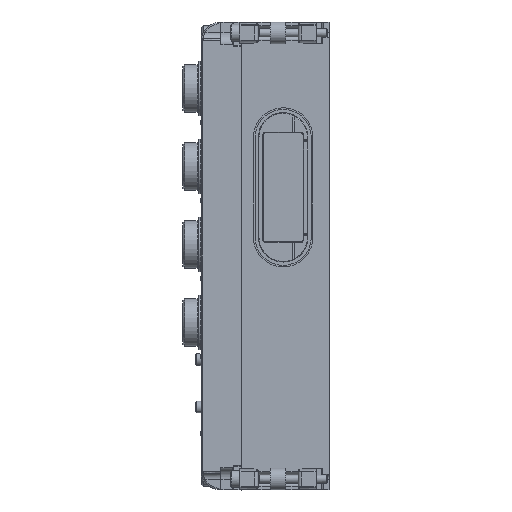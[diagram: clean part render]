
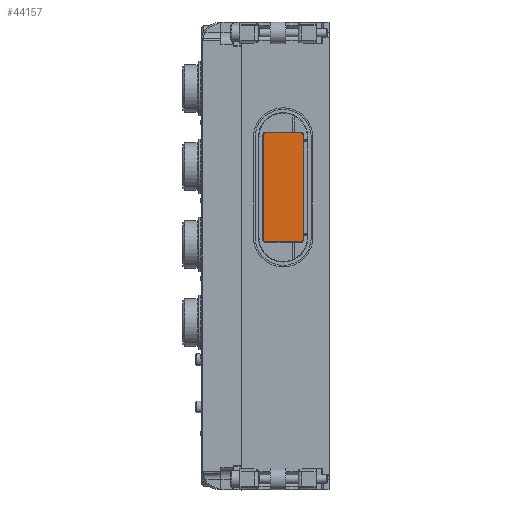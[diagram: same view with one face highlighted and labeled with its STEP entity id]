
A CAD part, left-side view. The second image highlights one B-rep face of the part: STEP entity #44157.
In plain terms, the highlighted planar face has unit normal (-1, 0, 0).
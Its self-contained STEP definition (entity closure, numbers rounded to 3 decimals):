
#125 = CARTESIAN_POINT ( 'NONE',  ( -32.3, -5., 39.5 ) ) ;
#1395 = EDGE_LOOP ( 'NONE', ( #45485, #97979, #51661, #4382, #16005, #28011, #72452, #62912 ) ) ;
#1918 = CARTESIAN_POINT ( 'NONE',  ( -32.3, 0.6, 38. ) ) ;
#4382 = ORIENTED_EDGE ( 'NONE', *, *, #8502, .T. ) ;
#8502 = EDGE_CURVE ( 'NONE', #49081, #49519, #45138, .T. ) ;
#9116 = LINE ( 'NONE', #21777, #92761 ) ;
#9375 = CARTESIAN_POINT ( 'NONE',  ( -32.3, 6.2, 38.7 ) ) ;
#10113 = DIRECTION ( 'NONE',  ( 0., 0., -1. ) ) ;
#13584 = EDGE_CURVE ( 'NONE', #56264, #72241, #75117, .T. ) ;
#14859 = CARTESIAN_POINT ( 'NONE',  ( -32.3, -5., 5.3 ) ) ;
#15142 = EDGE_CURVE ( 'NONE', #56264, #72830, #26420, .T. ) ;
#16005 = ORIENTED_EDGE ( 'NONE', *, *, #89438, .F. ) ;
#17506 = DIRECTION ( 'NONE',  ( 0., 0., -1. ) ) ;
#17836 = AXIS2_PLACEMENT_3D ( 'NONE', #14859, #71525, #22977 ) ;
#17898 = PLANE ( 'NONE',  #19612 ) ;
#19612 = AXIS2_PLACEMENT_3D ( 'NONE', #1918, #58561, #10113 ) ;
#21777 = CARTESIAN_POINT ( 'NONE',  ( -32.3, 7., 4.5 ) ) ;
#22977 = DIRECTION ( 'NONE',  ( 0., 0., -1. ) ) ;
#25859 = EDGE_CURVE ( 'NONE', #29797, #92174, #78473, .T. ) ;
#26420 = LINE ( 'NONE', #72669, #69505 ) ;
#28011 = ORIENTED_EDGE ( 'NONE', *, *, #59665, .T. ) ;
#28756 = VECTOR ( 'NONE', #85188, 1000. ) ;
#29797 = VERTEX_POINT ( 'NONE', #64042 ) ;
#34063 = CARTESIAN_POINT ( 'NONE',  ( -32.3, 6.2, 39.5 ) ) ;
#34395 = CARTESIAN_POINT ( 'NONE',  ( -32.3, 6.2, 4.5 ) ) ;
#34624 = CIRCLE ( 'NONE', #81601, 0.8 ) ;
#39536 = AXIS2_PLACEMENT_3D ( 'NONE', #95739, #47210, #103844 ) ;
#41263 = DIRECTION ( 'NONE',  ( -1., 0., 0. ) ) ;
#42362 = LINE ( 'NONE', #94876, #61368 ) ;
#44157 = ADVANCED_FACE ( 'NONE', ( #73039 ), #17898, .F. ) ;
#45138 = CIRCLE ( 'NONE', #17836, 0.8 ) ;
#45485 = ORIENTED_EDGE ( 'NONE', *, *, #45730, .F. ) ;
#45730 = EDGE_CURVE ( 'NONE', #29797, #72241, #9116, .T. ) ;
#47210 = DIRECTION ( 'NONE',  ( -1., 0., 0. ) ) ;
#49081 = VERTEX_POINT ( 'NONE', #60225 ) ;
#49519 = VERTEX_POINT ( 'NONE', #84223 ) ;
#50304 = LINE ( 'NONE', #77048, #28756 ) ;
#51661 = ORIENTED_EDGE ( 'NONE', *, *, #77791, .F. ) ;
#54811 = DIRECTION ( 'NONE',  ( 0., 1., 0. ) ) ;
#55293 = VERTEX_POINT ( 'NONE', #93148 ) ;
#56264 = VERTEX_POINT ( 'NONE', #34063 ) ;
#58561 = DIRECTION ( 'NONE',  ( 1., 0., 0. ) ) ;
#59665 = EDGE_CURVE ( 'NONE', #55293, #72830, #34624, .T. ) ;
#60225 = CARTESIAN_POINT ( 'NONE',  ( -32.3, -5., 4.5 ) ) ;
#61368 = VECTOR ( 'NONE', #54811, 1000. ) ;
#62906 = CARTESIAN_POINT ( 'NONE',  ( -32.3, 7., 38.7 ) ) ;
#62912 = ORIENTED_EDGE ( 'NONE', *, *, #13584, .T. ) ;
#64042 = CARTESIAN_POINT ( 'NONE',  ( -32.3, 7., 5.3 ) ) ;
#65942 = DIRECTION ( 'NONE',  ( -1., 0., 0. ) ) ;
#69505 = VECTOR ( 'NONE', #80453, 1000. ) ;
#71525 = DIRECTION ( 'NONE',  ( -1., 0., 0. ) ) ;
#72241 = VERTEX_POINT ( 'NONE', #62906 ) ;
#72452 = ORIENTED_EDGE ( 'NONE', *, *, #15142, .F. ) ;
#72669 = CARTESIAN_POINT ( 'NONE',  ( -32.3, 7., 39.5 ) ) ;
#72830 = VERTEX_POINT ( 'NONE', #125 ) ;
#73039 = FACE_OUTER_BOUND ( 'NONE', #1395, .T. ) ;
#75117 = CIRCLE ( 'NONE', #92484, 0.8 ) ;
#77048 = CARTESIAN_POINT ( 'NONE',  ( -32.3, -5.8, 4.5 ) ) ;
#77791 = EDGE_CURVE ( 'NONE', #49081, #92174, #42362, .T. ) ;
#78461 = DIRECTION ( 'NONE',  ( 0., 0., 1. ) ) ;
#78473 = CIRCLE ( 'NONE', #39536, 0.8 ) ;
#80453 = DIRECTION ( 'NONE',  ( 0., -1., 0. ) ) ;
#81601 = AXIS2_PLACEMENT_3D ( 'NONE', #89802, #41263, #97969 ) ;
#84223 = CARTESIAN_POINT ( 'NONE',  ( -32.3, -5.8, 5.3 ) ) ;
#85188 = DIRECTION ( 'NONE',  ( 0., 0., -1. ) ) ;
#89438 = EDGE_CURVE ( 'NONE', #55293, #49519, #50304, .T. ) ;
#89802 = CARTESIAN_POINT ( 'NONE',  ( -32.3, -5., 38.7 ) ) ;
#92174 = VERTEX_POINT ( 'NONE', #34395 ) ;
#92484 = AXIS2_PLACEMENT_3D ( 'NONE', #9375, #65942, #17506 ) ;
#92761 = VECTOR ( 'NONE', #78461, 1000. ) ;
#93148 = CARTESIAN_POINT ( 'NONE',  ( -32.3, -5.8, 38.7 ) ) ;
#94876 = CARTESIAN_POINT ( 'NONE',  ( -32.3, 7., 4.5 ) ) ;
#95739 = CARTESIAN_POINT ( 'NONE',  ( -32.3, 6.2, 5.3 ) ) ;
#97969 = DIRECTION ( 'NONE',  ( 0., 0., -1. ) ) ;
#97979 = ORIENTED_EDGE ( 'NONE', *, *, #25859, .T. ) ;
#103844 = DIRECTION ( 'NONE',  ( 0., 0., -1. ) ) ;
